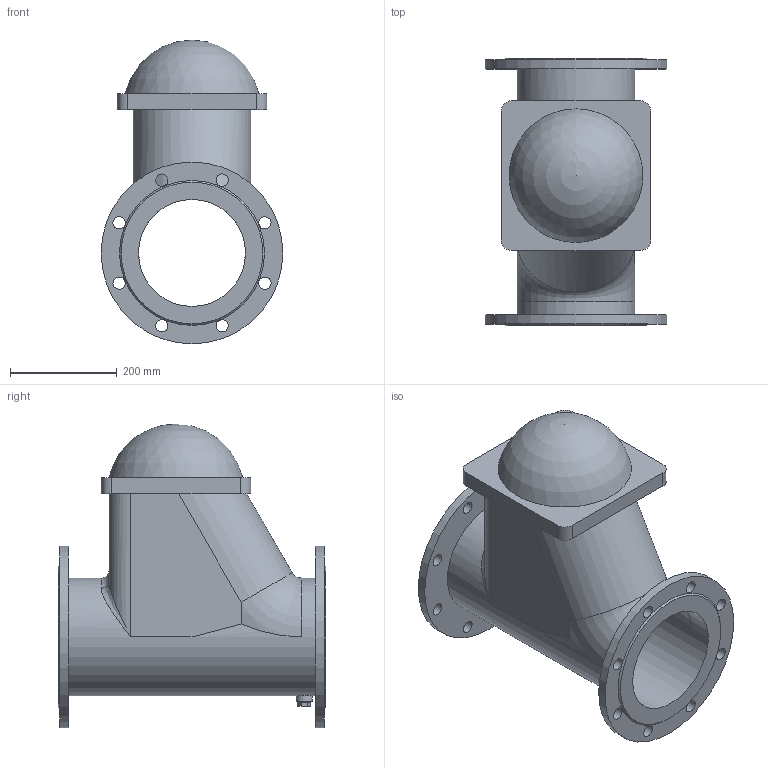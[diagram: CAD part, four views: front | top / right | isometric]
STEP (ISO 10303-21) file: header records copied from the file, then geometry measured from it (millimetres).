
FILE_DESCRIPTION(('STEP AP203'), '1');
FILE_NAME('Êëàïàí îáðàòíûé øàðîâîé ôëàíöåâûé 012F.Z DN200 PN10', '', ('UNSPECIFIED'), ('UNSPECIFIED'), 'ASCON STEP Converter 1.6', 'ASCON Math Kernel', '');
FILE_SCHEMA(('CONFIG_CONTROL_DESIGN'));
Length unit declared in the file: millimetre
Bounding box: 340 x 500 x 568 mm (x, y, z)
Volume: 18089946.2 mm3; surface area: 1294241.5 mm2
Topology: 1 solids, 1 shells, 70 faces, 176 edges, 114 vertices
Faces by surface type: plane 32, cylinder 30, torus 3, bspline 2, cone 2, sphere 1
Full cylindrical faces by diameter (mm): 23 x16, 25 x1, 30 x1, 200 x1, 220 x1, 340 x2
Entity records: 3240 total; most frequent: CARTESIAN_POINT 1006, DIRECTION 332, ORIENTED_EDGE 292, EDGE_CURVE 146, EDGE_LOOP 139, AXIS2_PLACEMENT_3D 138, VERTEX_POINT 113, FACE_BOUND 90
